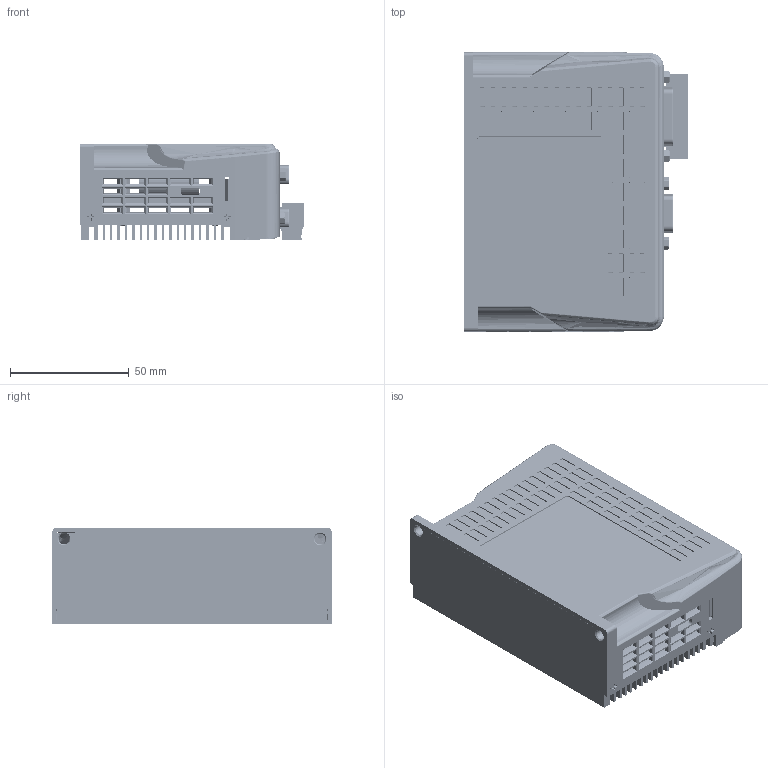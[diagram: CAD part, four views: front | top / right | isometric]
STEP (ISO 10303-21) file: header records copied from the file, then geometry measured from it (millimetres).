
FILE_DESCRIPTION (( 'STEP AP203' ), '1' );
FILE_NAME ('MCAC610.STEP', '2021-06-29T08:27:59', ( 'USER-' ), ( 'MS' ), 'SwSTEP 2.0', 'SolidWorks 2018', '' );
FILE_SCHEMA (( 'CONFIG_CONTROL_DESIGN' ));
Length unit declared in the file: millimetre
Products named in the file (38): MCAC610.sldasm-Part-12; MCAC610.sldasm-Part-31; MCAC610.sldasm-Part-4; MCAC610.sldasm-Part-23; MCAC610.sldasm-Part-21; MCAC610.sldasm-Part-13; MCAC610.sldasm-Part-32; MCAC610.sldasm-Part-5; MCAC610.sldasm-Part-24; MCAC610.sldasm-Part-22; MCAC610.sldasm-Part-14; MCAC610.sldasm-Part-33; MCAC610.sldasm-Part-6; MCAC610.sldasm-Part-25; MCAC610.sldasm-Part-15; MCAC610.sldasm-Part-34; MCAC610.sldasm-Part-7; MCAC610.sldasm-Part-26; MCAC610.sldasm-Part-16; MCAC610.sldasm-Part-35; MCAC610.sldasm-Part-8; MCAC610.sldasm-Part-27; MCAC610.sldasm-Part-17; MCAC610.sldasm-Part-36; MCAC610.sldasm-Part-9; MCAC610.sldasm-Part-28; MCAC610.sldasm-Part-1; MCAC610.sldasm-Part-18; MCAC610.sldasm-Part-37; MCAC610.sldasm-Part-10; MCAC610.sldasm-Part-29; MCAC610.sldasm-Part-2; MCAC610.sldasm-Part-19; MCAC610; MCAC610.sldasm-Part-11; MCAC610.sldasm-Part-30; MCAC610.sldasm-Part-3; MCAC610.sldasm-Part-20
Assembly tree (37 placements, depth 2):
  MCAC610
    MCAC610.sldasm-Part-1
    MCAC610.sldasm-Part-2
    MCAC610.sldasm-Part-3
    MCAC610.sldasm-Part-4
    MCAC610.sldasm-Part-5
    MCAC610.sldasm-Part-6
    MCAC610.sldasm-Part-7
    MCAC610.sldasm-Part-8
    MCAC610.sldasm-Part-9
    MCAC610.sldasm-Part-10
    MCAC610.sldasm-Part-11
    MCAC610.sldasm-Part-12
    MCAC610.sldasm-Part-13
    MCAC610.sldasm-Part-14
    MCAC610.sldasm-Part-15
    MCAC610.sldasm-Part-16
    MCAC610.sldasm-Part-17
    MCAC610.sldasm-Part-18
    MCAC610.sldasm-Part-19
    MCAC610.sldasm-Part-20
    MCAC610.sldasm-Part-21
    MCAC610.sldasm-Part-22
    MCAC610.sldasm-Part-23
    MCAC610.sldasm-Part-24
    MCAC610.sldasm-Part-25
    MCAC610.sldasm-Part-26
    MCAC610.sldasm-Part-27
    MCAC610.sldasm-Part-28
    MCAC610.sldasm-Part-29
    MCAC610.sldasm-Part-30
    MCAC610.sldasm-Part-31
    MCAC610.sldasm-Part-32
    MCAC610.sldasm-Part-33
    MCAC610.sldasm-Part-34
    MCAC610.sldasm-Part-35
    MCAC610.sldasm-Part-36
    MCAC610.sldasm-Part-37
Bounding box: 94.15 x 117.95 x 40.57 mm (x, y, z)
Volume: 152619.2 mm3; surface area: 163818.5 mm2
Topology: 37 solids, 41 shells, 6698 faces, 18461 edges, 11932 vertices
Faces by surface type: plane 3430, cylinder 2226, bspline 530, cone 306, torus 159, sphere 47
Entity records: 324927 total; most frequent: CARTESIAN_POINT 161025, ORIENTED_EDGE 36412, DIRECTION 29320, EDGE_CURVE 18206, VERTEX_POINT 11919, VECTOR 11070, LINE 11070, AXIS2_PLACEMENT_3D 9125
